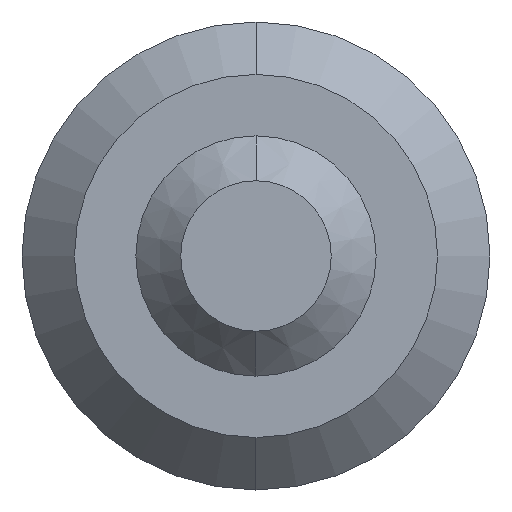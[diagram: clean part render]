
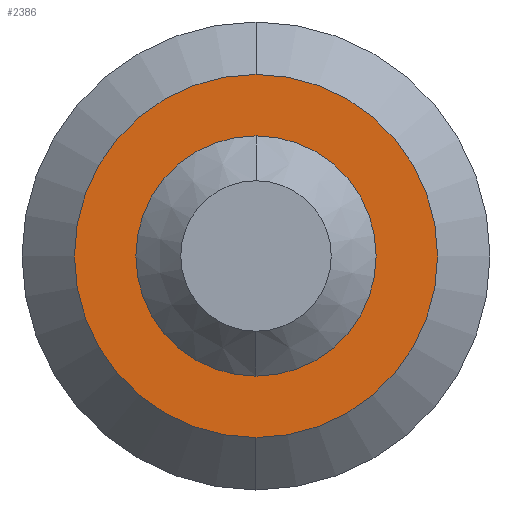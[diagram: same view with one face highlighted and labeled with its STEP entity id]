
A CAD part, left-side view. The second image highlights one B-rep face of the part: STEP entity #2386.
In plain terms, the highlighted planar face has unit normal (-1, 0, 0).
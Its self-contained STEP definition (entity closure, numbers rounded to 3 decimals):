
#9 = EDGE_CURVE ( 'NONE', #2384, #2098, #328, .T. ) ;
#10 = ORIENTED_EDGE ( 'NONE', *, *, #2366, .T. ) ;
#22 = EDGE_CURVE ( 'NONE', #53, #65, #394, .T. ) ;
#26 = EDGE_CURVE ( 'NONE', #2098, #2384, #421, .T. ) ;
#53 = VERTEX_POINT ( 'NONE', #571 ) ;
#65 = VERTEX_POINT ( 'NONE', #616 ) ;
#228 = EDGE_LOOP ( 'NONE', ( #10, #1774 ) ) ;
#328 = CIRCLE ( 'NONE', #329, 32.1 ) ;
#329 = AXIS2_PLACEMENT_3D ( 'NONE', #330, #331, #332 ) ;
#330 = CARTESIAN_POINT ( 'NONE',  ( 1200., 0., 1720. ) ) ;
#331 = DIRECTION ( 'NONE',  ( -1., 0., 0. ) ) ;
#332 = DIRECTION ( 'NONE',  ( 0., 0., 1. ) ) ;
#394 = CIRCLE ( 'NONE', #395, 48.5 ) ;
#395 = AXIS2_PLACEMENT_3D ( 'NONE', #396, #399, #400 ) ;
#396 = CARTESIAN_POINT ( 'NONE',  ( 1200., 0., 1720. ) ) ;
#399 = DIRECTION ( 'NONE',  ( -1., 0., 0. ) ) ;
#400 = DIRECTION ( 'NONE',  ( 0., 0., 1. ) ) ;
#421 = CIRCLE ( 'NONE', #422, 32.1 ) ;
#422 = AXIS2_PLACEMENT_3D ( 'NONE', #423, #424, #425 ) ;
#423 = CARTESIAN_POINT ( 'NONE',  ( 1200., 0., 1720. ) ) ;
#424 = DIRECTION ( 'NONE',  ( -1., 0., 0. ) ) ;
#425 = DIRECTION ( 'NONE',  ( 0., 0., 1. ) ) ;
#571 = CARTESIAN_POINT ( 'NONE',  ( 1200., 0., 1768.5 ) ) ;
#616 = CARTESIAN_POINT ( 'NONE',  ( 1200., 0., 1671.5 ) ) ;
#1096 = CARTESIAN_POINT ( 'NONE',  ( 1200., 0., 1752.1 ) ) ;
#1167 = CIRCLE ( 'NONE', #1168, 48.5 ) ;
#1168 = AXIS2_PLACEMENT_3D ( 'NONE', #1169, #1170, #1171 ) ;
#1169 = CARTESIAN_POINT ( 'NONE',  ( 1200., 0., 1720. ) ) ;
#1170 = DIRECTION ( 'NONE',  ( -1., 0., 0. ) ) ;
#1171 = DIRECTION ( 'NONE',  ( 0., 0., 1. ) ) ;
#1249 = CARTESIAN_POINT ( 'NONE',  ( 1200., 0., 1687.9 ) ) ;
#1251 = FACE_BOUND ( 'NONE', #2460, .T. ) ;
#1252 = FACE_OUTER_BOUND ( 'NONE', #228, .T. ) ;
#1253 = PLANE ( 'NONE',  #1254 ) ;
#1254 = AXIS2_PLACEMENT_3D ( 'NONE', #1255, #1256, #1257 ) ;
#1255 = CARTESIAN_POINT ( 'NONE',  ( 1200., 48.5, 1720. ) ) ;
#1256 = DIRECTION ( 'NONE',  ( 1., 0., 0. ) ) ;
#1257 = DIRECTION ( 'NONE',  ( 0., 0., -1. ) ) ;
#1774 = ORIENTED_EDGE ( 'NONE', *, *, #22, .T. ) ;
#2098 = VERTEX_POINT ( 'NONE', #1096 ) ;
#2178 = ORIENTED_EDGE ( 'NONE', *, *, #26, .F. ) ;
#2366 = EDGE_CURVE ( 'NONE', #65, #53, #1167, .T. ) ;
#2384 = VERTEX_POINT ( 'NONE', #1249 ) ;
#2386 = ADVANCED_FACE ( 'NONE', ( #1251, #1252 ), #1253, .F. ) ;
#2460 = EDGE_LOOP ( 'NONE', ( #2473, #2178 ) ) ;
#2473 = ORIENTED_EDGE ( 'NONE', *, *, #9, .F. ) ;
